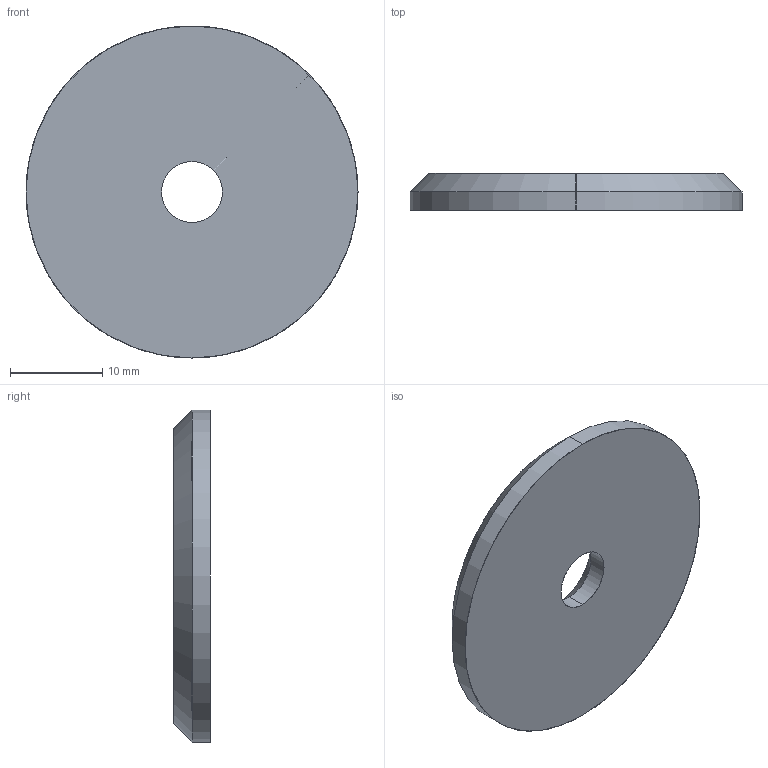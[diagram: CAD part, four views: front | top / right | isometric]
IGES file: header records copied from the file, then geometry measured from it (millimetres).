
Start section: SolidWorks IGES file using analytic representation for surfaces
Global section: file name: C:\Documents and Settings\IANO\Desktop\Temp File\Process pending\EXISTING\36720_v2\36720_v2_20170629_IGES\36720.W0036.igs; native system: SolidWorks 2009; preprocessor: SolidWorks 2009; author: IANO; date: 170627.110842; units: millimetre
Bounding box: 36 x 4 x 36 mm (x, y, z)
Surface area: 2345.9 mm2 (no closed solid volume)
Topology: 0 solids, 0 shells, 10 faces, 224 edges, 224 vertices
Faces by surface type: revolution 8, bspline 2
